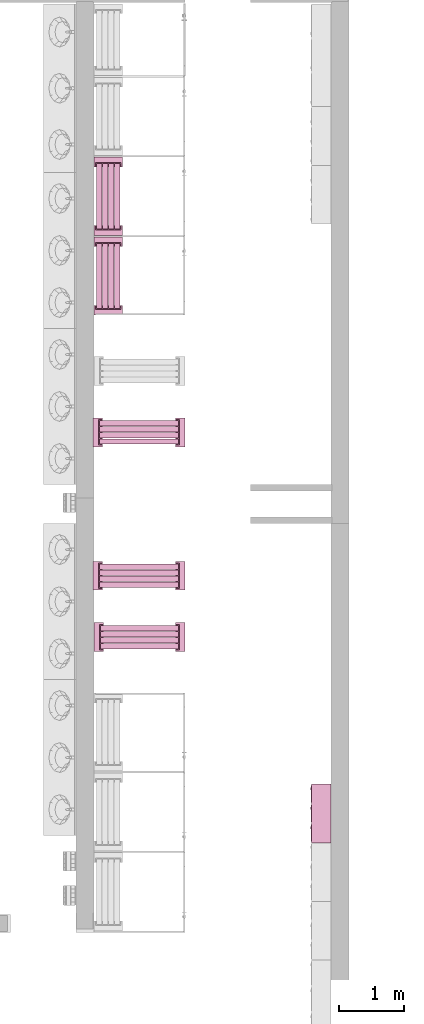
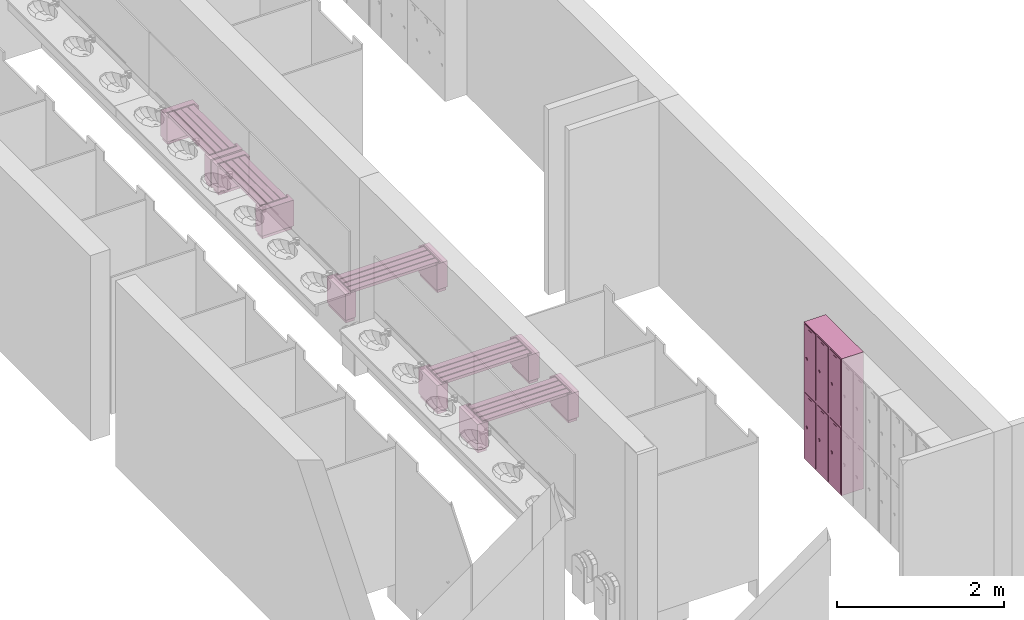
# One storey, part 13 of 22: 6 furnishings.
"""IFC2X3 building model written with IfcOpenShell, lengths in millimetres."""

from ifc_helpers import new_model, entity, si_unit, converted_unit, derived_unit, direction, frame, frame_2d, origin, origin_2d_with_axis, place, context, subcontext, project, spatial, polyline, rectangle, outline, extrude, source, transform, mapped, material, material_list, type_object, type_shapes, element, save


model = new_model("IFC2X3")

# Units and contexts
model_context = context("Model", 3, precision=0.01, world=origin(), true_north=direction((6.12303176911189e-17, 1.0)))
body_context = subcontext(model_context, "Body", "Model", "MODEL_VIEW")
ifc_project = project(units=[si_unit("LENGTHUNIT", "METRE", prefix="MILLI"), si_unit("AREAUNIT", "SQUARE_METRE"), si_unit("VOLUMEUNIT", "CUBIC_METRE"), converted_unit("PLANEANGLEUNIT", "DEGREE", entity("IfcRatioMeasure", 0.0174532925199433), si_unit("PLANEANGLEUNIT", "RADIAN"), dimensions=[0, 0, 0, 0, 0, 0, 0]), si_unit("MASSUNIT", "GRAM", prefix="KILO"), derived_unit("MASSDENSITYUNIT", [(si_unit("MASSUNIT", "GRAM", prefix="KILO"), 1), (si_unit("LENGTHUNIT", "METRE"), -3)]), si_unit("TIMEUNIT", "SECOND"), si_unit("FREQUENCYUNIT", "HERTZ"), si_unit("THERMODYNAMICTEMPERATUREUNIT", "DEGREE_CELSIUS"), derived_unit("THERMALTRANSMITTANCEUNIT", [(si_unit("MASSUNIT", "GRAM", prefix="KILO"), 1), (si_unit("THERMODYNAMICTEMPERATUREUNIT", "KELVIN"), -1), (si_unit("TIMEUNIT", "SECOND"), -3)]), derived_unit("VOLUMETRICFLOWRATEUNIT", [(si_unit("LENGTHUNIT", "METRE"), 3), (si_unit("TIMEUNIT", "SECOND"), -1)]), si_unit("ELECTRICCURRENTUNIT", "AMPERE"), si_unit("ELECTRICVOLTAGEUNIT", "VOLT"), si_unit("POWERUNIT", "WATT"), si_unit("FORCEUNIT", "NEWTON", prefix="KILO"), si_unit("ILLUMINANCEUNIT", "LUX"), si_unit("LUMINOUSFLUXUNIT", "LUMEN"), si_unit("LUMINOUSINTENSITYUNIT", "CANDELA"), derived_unit("USERDEFINED", [(si_unit("MASSUNIT", "GRAM", prefix="KILO"), -1), (si_unit("LENGTHUNIT", "METRE"), -2), (si_unit("TIMEUNIT", "SECOND"), 3), (si_unit("LUMINOUSFLUXUNIT", "LUMEN"), 1)]), derived_unit("LINEARVELOCITYUNIT", [(si_unit("LENGTHUNIT", "METRE"), 1), (si_unit("TIMEUNIT", "SECOND"), -1)]), si_unit("PRESSUREUNIT", "PASCAL"), derived_unit("USERDEFINED", [(si_unit("LENGTHUNIT", "METRE"), -2), (si_unit("MASSUNIT", "GRAM", prefix="KILO"), 1), (si_unit("TIMEUNIT", "SECOND"), -2)])], contexts=[model_context])

# Site, building, storey
site_placement = place(None, origin())
site = spatial("IfcSite", under=ifc_project, at=site_placement, Name="Default", CompositionType="ELEMENT")
building_placement = place(site_placement, origin())
building = spatial("IfcBuilding", under=site, at=building_placement, CompositionType="ELEMENT")
storey_placement = place(building_placement, frame((0.0, 0.0, -3000.0)))
storey = spatial("IfcBuildingStorey", under=building, at=storey_placement, Name="-2. Story", CompositionType="ELEMENT", Elevation=-3000.0)

# Furnishings
ifc_material_1 = material(Name="Metal - Stainless Steel")
ifc_material_2 = material(Name="Paint - Glossy White")
ifc_material_3 = material(Name="Paint - Cobalt Blue")
ifc_material_list_1 = material_list([ifc_material_1, ifc_material_2, ifc_material_3])
ifc_material_list_2 = material_list([ifc_material_1, ifc_material_2, ifc_material_3])
furniture_type_1 = type_object("IfcFurnitureType", Name="FU - 010", material=ifc_material_list_2)
shared_shape_1 = source(origin(), body_context, "Body", "SweptSolid", [
    extrude(outline(polyline([(-7.65366864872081, -18.477590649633), (7.65366864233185, -18.477590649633), (18.4775906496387, -7.65366864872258), (18.4775906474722, 7.65366864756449), (7.65366864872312, 18.4775906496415), (-7.65366864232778, 18.4775906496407), (-18.477590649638, 7.65366864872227), (-18.4775906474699, -7.65366864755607), (-7.65366864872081, -18.477590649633)])), frame((53933.5254833, 77833.9483369, -1400.0), z_axis=(1.0, 0.0, 0.0), x_axis=(0.0, 0.382683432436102, -0.923879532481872)), (0.0, 0.0, 1.0), 10.0000000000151),
    extrude(rectangle(XDim=75.0000000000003, YDim=4.99999999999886, at=origin_2d_with_axis()), frame((53941.0254833, 77753.9483369, -1000.0), z_axis=(0.0, 0.0, 1.0), x_axis=(0.0, -1.0, 0.0)), (0.0, 0.0, 1.0), 50.0),
    extrude(rectangle(XDim=259.999999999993, YDim=9.99999999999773, at=origin_2d_with_axis()), frame((53948.5254833, 77753.9483369, -1880.0), z_axis=(0.0, 0.0, 1.0), x_axis=(0.0, 1.0, 0.0)), (0.0, 0.0, 1.0), 960.0),
    extrude(rectangle(XDim=300.000000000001, YDim=20.0000000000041, at=frame_2d((0.0, -4.33164615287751e-12), x_axis=(1.0, 0.0))), frame((54238.5254833, 77753.9483369, -1900.0), z_axis=(0.0, 0.0, 1.0), x_axis=(0.0, -1.0, 0.0)), (0.0, 0.0, 1.0), 1000.0),
    extrude(outline(polyline([(-150.0, -500.0), (150.0, -500.0), (150.0, 500.0), (-150.0, 500.0), (-150.0, -500.0)]), holes=[polyline([(130.0, 480.0), (130.0, -480.0), (-130.0, -480.0), (-130.0, 480.0), (130.0, 480.0)])]), frame((53948.5254833, 77753.9483369, -1400.0), z_axis=(1.0, 0.0, 0.0), x_axis=(0.0, 1.0, 0.0)), (0.0, 0.0, 1.0), 279.999999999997),
    extrude(outline(polyline([(-7.65366864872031, -18.4775906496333), (7.65366864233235, -18.4775906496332), (18.4775906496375, -7.65366864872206), (18.4775906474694, 7.65366864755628), (7.65366864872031, 18.4775906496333), (-7.65366864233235, 18.4775906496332), (-18.4775906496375, 7.65366864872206), (-18.4775906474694, -7.65366864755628), (-7.65366864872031, -18.4775906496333)])), frame((53933.5254833, 78133.9483369, -1400.0), z_axis=(1.0, 0.0, 0.0), x_axis=(0.0, 0.382683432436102, -0.923879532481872)), (0.0, 0.0, 1.0), 10.0000000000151),
    extrude(rectangle(XDim=75.0000000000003, YDim=4.99999999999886, at=origin_2d_with_axis()), frame((53941.0254833, 78053.9483369, -1000.0), z_axis=(0.0, 0.0, 1.0), x_axis=(0.0, -1.0, 0.0)), (0.0, 0.0, 1.0), 50.0),
    extrude(rectangle(XDim=260.00000000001, YDim=9.99999999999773, at=origin_2d_with_axis()), frame((53948.5254833, 78053.9483369, -1880.0), z_axis=(0.0, 0.0, 1.0), x_axis=(0.0, 1.0, 0.0)), (0.0, 0.0, 1.0), 960.0),
    extrude(rectangle(XDim=300.000000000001, YDim=20.0000000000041, at=frame_2d((0.0, -4.33164615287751e-12), x_axis=(1.0, 0.0))), frame((54238.5254833, 78053.9483369, -1900.0), z_axis=(0.0, 0.0, 1.0), x_axis=(0.0, -1.0, 0.0)), (0.0, 0.0, 1.0), 1000.0),
    extrude(outline(polyline([(-150.0, -500.0), (150.0, -500.0), (150.0, 500.0), (-150.0, 500.0), (-150.0, -500.0)]), holes=[polyline([(130.0, 480.0), (130.0, -480.0), (-130.0, -480.0), (-130.0, 480.0), (130.0, 480.0)])]), frame((53948.5254833, 78053.9483369, -1400.0), z_axis=(1.0, 0.0, 0.0), x_axis=(0.0, 1.0, 0.0)), (0.0, 0.0, 1.0), 279.999999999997),
    extrude(outline(polyline([(-7.65366864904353, -18.4775906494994), (7.65366864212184, -18.4775906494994), (18.4775906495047, -7.65366864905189), (18.477590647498, 7.6536686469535), (7.65366864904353, 18.4775906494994), (-7.65366864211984, 18.4775906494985), (-18.4775906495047, 7.65366864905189), (-18.477590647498, -7.6536686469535), (-7.65366864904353, -18.4775906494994)])), frame((53933.5254833, 78433.9483369, -1400.0), z_axis=(1.0, 0.0, 0.0), x_axis=(0.0, 0.382683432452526, -0.923879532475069)), (0.0, 0.0, 1.0), 10.0000000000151),
    extrude(rectangle(XDim=75.0000000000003, YDim=4.99999999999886, at=origin_2d_with_axis()), frame((53941.0254833, 78353.9483369, -1000.0), z_axis=(0.0, 0.0, 1.0), x_axis=(0.0, -1.0, 0.0)), (0.0, 0.0, 1.0), 50.0),
    extrude(rectangle(XDim=260.00000000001, YDim=9.99999999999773, at=origin_2d_with_axis()), frame((53948.5254833, 78353.9483369, -1880.0), z_axis=(0.0, 0.0, 1.0), x_axis=(0.0, 1.0, 0.0)), (0.0, 0.0, 1.0), 960.0),
    extrude(rectangle(XDim=300.000000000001, YDim=20.0000000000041, at=frame_2d((0.0, -4.33164615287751e-12), x_axis=(1.0, 0.0))), frame((54238.5254833, 78353.9483369, -1900.0), z_axis=(0.0, 0.0, 1.0), x_axis=(0.0, -1.0, 0.0)), (0.0, 0.0, 1.0), 1000.0),
    extrude(outline(polyline([(-150.0, -500.0), (150.0, -500.0), (150.0, 500.0), (-150.0, 500.0), (-150.0, -500.0)]), holes=[polyline([(130.0, 480.0), (130.0, -480.0), (-130.0, -480.0), (-130.0, 480.0), (130.0, 480.0)])]), frame((53948.5254833, 78353.9483369, -1400.0), z_axis=(1.0, 0.0, 0.0), x_axis=(0.0, 1.0, 0.0)), (0.0, 0.0, 1.0), 279.999999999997),
    extrude(outline(polyline([(-7.653668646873, -18.4775906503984), (7.65366864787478, -18.4775906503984), (18.4775906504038, -7.65366864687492), (18.4775906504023, 7.65366864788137), (7.65366864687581, 18.4775906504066), (-7.65366864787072, 18.4775906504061), (-18.477590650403, 7.65366864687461), (-18.4775906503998, -7.65366864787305), (-7.653668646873, -18.4775906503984)])), frame((53933.5254833, 77833.9483369, -2400.0), z_axis=(1.0, 0.0, 0.0), x_axis=(0.0, 0.382683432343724, -0.923879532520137)), (0.0, 0.0, 1.0), 10.0000000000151),
    extrude(rectangle(XDim=75.0000000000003, YDim=4.99999999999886, at=origin_2d_with_axis()), frame((53941.0254833, 77753.9483369, -2000.0), z_axis=(0.0, 0.0, 1.0), x_axis=(0.0, -1.0, 0.0)), (0.0, 0.0, 1.0), 50.0),
    extrude(rectangle(XDim=259.999999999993, YDim=9.99999999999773, at=origin_2d_with_axis()), frame((53948.5254833, 77753.9483369, -2880.0), z_axis=(0.0, 0.0, 1.0), x_axis=(0.0, 1.0, 0.0)), (0.0, 0.0, 1.0), 960.0),
    extrude(rectangle(XDim=300.000000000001, YDim=20.0000000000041, at=frame_2d((0.0, -4.33164615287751e-12), x_axis=(1.0, 0.0))), frame((54238.5254833, 77753.9483369, -2900.0), z_axis=(0.0, 0.0, 1.0), x_axis=(0.0, -1.0, 0.0)), (0.0, 0.0, 1.0), 1000.0),
    extrude(outline(polyline([(-150.0, -500.0), (150.0, -500.0), (150.0, 500.0), (-150.0, 500.0), (-150.0, -500.0)]), holes=[polyline([(130.0, 480.0), (130.0, -480.0), (-130.0, -480.0), (-130.0, 480.0), (130.0, 480.0)])]), frame((53948.5254833, 77753.9483369, -2400.0), z_axis=(1.0, 0.0, 0.0), x_axis=(0.0, 1.0, 0.0)), (0.0, 0.0, 1.0), 279.999999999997),
    extrude(outline(polyline([(-7.6536686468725, -18.4775906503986), (7.65366864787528, -18.4775906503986), (18.4775906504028, -7.65366864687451), (18.4775906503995, 7.65366864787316), (7.653668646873, 18.4775906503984), (-7.65366864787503, 18.4775906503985), (-18.4775906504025, 7.65366864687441), (-18.4775906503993, -7.65366864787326), (-7.6536686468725, -18.4775906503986)])), frame((53933.5254833, 78133.9483369, -2400.0), z_axis=(1.0, 0.0, 0.0), x_axis=(0.0, 0.382683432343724, -0.923879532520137)), (0.0, 0.0, 1.0), 10.0000000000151),
    extrude(rectangle(XDim=75.0000000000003, YDim=4.99999999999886, at=origin_2d_with_axis()), frame((53941.0254833, 78053.9483369, -2000.0), z_axis=(0.0, 0.0, 1.0), x_axis=(0.0, -1.0, 0.0)), (0.0, 0.0, 1.0), 50.0),
    extrude(rectangle(XDim=260.00000000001, YDim=9.99999999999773, at=origin_2d_with_axis()), frame((53948.5254833, 78053.9483369, -2880.0), z_axis=(0.0, 0.0, 1.0), x_axis=(0.0, 1.0, 0.0)), (0.0, 0.0, 1.0), 960.0),
    extrude(rectangle(XDim=300.000000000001, YDim=20.0000000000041, at=frame_2d((0.0, -4.33164615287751e-12), x_axis=(1.0, 0.0))), frame((54238.5254833, 78053.9483369, -2900.0), z_axis=(0.0, 0.0, 1.0), x_axis=(0.0, -1.0, 0.0)), (0.0, 0.0, 1.0), 1000.0),
    extrude(outline(polyline([(-150.0, -500.0), (150.0, -500.0), (150.0, 500.0), (-150.0, 500.0), (-150.0, -500.0)]), holes=[polyline([(130.0, 480.0), (130.0, -480.0), (-130.0, -480.0), (-130.0, 480.0), (130.0, 480.0)])]), frame((53948.5254833, 78053.9483369, -2400.0), z_axis=(1.0, 0.0, 0.0), x_axis=(0.0, 1.0, 0.0)), (0.0, 0.0, 1.0), 279.999999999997),
    extrude(outline(polyline([(-7.65366864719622, -18.4775906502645), (7.65366864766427, -18.4775906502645), (18.4775906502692, -7.65366864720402), (18.4775906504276, 7.65366864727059), (7.65366864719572, 18.4775906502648), (-7.65366864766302, 18.477590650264), (-18.4775906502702, 7.65366864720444), (-18.4775906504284, -7.65366864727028), (-7.65366864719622, -18.4775906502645)])), frame((53933.5254833, 78433.9483369, -2400.0), z_axis=(1.0, 0.0, 0.0), x_axis=(0.0, 0.382683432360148, -0.923879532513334)), (0.0, 0.0, 1.0), 10.0000000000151),
    extrude(rectangle(XDim=75.0000000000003, YDim=4.99999999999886, at=origin_2d_with_axis()), frame((53941.0254833, 78353.9483369, -2000.0), z_axis=(0.0, 0.0, 1.0), x_axis=(0.0, -1.0, 0.0)), (0.0, 0.0, 1.0), 50.0),
    extrude(rectangle(XDim=260.00000000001, YDim=9.99999999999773, at=origin_2d_with_axis()), frame((53948.5254833, 78353.9483369, -2880.0), z_axis=(0.0, 0.0, 1.0), x_axis=(0.0, 1.0, 0.0)), (0.0, 0.0, 1.0), 960.0),
    extrude(rectangle(XDim=300.000000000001, YDim=20.0000000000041, at=frame_2d((0.0, -4.33164615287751e-12), x_axis=(1.0, 0.0))), frame((54238.5254833, 78353.9483369, -2900.0), z_axis=(0.0, 0.0, 1.0), x_axis=(0.0, -1.0, 0.0)), (0.0, 0.0, 1.0), 1000.0),
    extrude(outline(polyline([(-150.0, -500.0), (150.0, -500.0), (150.0, 500.0), (-150.0, 500.0), (-150.0, -500.0)]), holes=[polyline([(130.0, 480.0), (130.0, -480.0), (-130.0, -480.0), (-130.0, 480.0), (130.0, 480.0)])]), frame((53948.5254833, 78353.9483369, -2400.0), z_axis=(1.0, 0.0, 0.0), x_axis=(0.0, 1.0, 0.0)), (0.0, 0.0, 1.0), 279.999999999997),
])
type_shapes(furniture_type_1, [shared_shape_1])
furnishing_1_placement = place(storey_placement, frame((0.0, 0.0, 3000.0)))
element("IfcFurnishingElement", 1, at=furnishing_1_placement, inside=storey, type_object=furniture_type_1, material=ifc_material_list_1, Name="FU - 010:FU - 010", ObjectType="FU - 010:FU - 010", context=body_context, shape_type="MappedRepresentation", body=[
    mapped(shared_shape_1, transform((0.0, 0.0, 0.0), scale=1.0)),
])
ifc_material_4 = material(Name="Wood - Pine Grained Horizontal")
ifc_material_5 = material(Name="Paint - Titanium White")
ifc_material_list_3 = material_list([ifc_material_4, ifc_material_5])
ifc_material_list_4 = material_list([ifc_material_4, ifc_material_5])
furniture_type_2 = type_object("IfcFurnitureType", Name="FU - 011", material=ifc_material_list_4)
shared_shape_2 = source(origin(), body_context, "Body", "SweptSolid", [
    extrude(rectangle(XDim=83.1575481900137, YDim=1214.87365918, at=frame_2d((0.0, -4.32009983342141e-12), x_axis=(1.0, 0.0))), frame((51301.42009191, 81564.212014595, -2510.0), z_axis=(0.0, 0.0, 1.0), x_axis=(0.0, 1.0, 0.0)), (0.0, 0.0, 1.0), 40.0000000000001),
    extrude(rectangle(XDim=83.1575481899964, YDim=1214.87365918, at=frame_2d((8.66506866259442e-12, -4.32009983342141e-12), x_axis=(1.0, 0.0))), frame((51301.42009191, 81657.369562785, -2510.0), z_axis=(0.0, 0.0, 1.0), x_axis=(0.0, 1.0, 0.0)), (0.0, 0.0, 1.0), 40.0000000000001),
    extrude(rectangle(XDim=83.1575481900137, YDim=1214.87365918, at=frame_2d((0.0, -4.32009983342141e-12), x_axis=(1.0, 0.0))), frame((51301.42009191, 81750.527110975, -2510.0), z_axis=(0.0, 0.0, 1.0), x_axis=(0.0, 1.0, 0.0)), (0.0, 0.0, 1.0), 40.0000000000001),
    extrude(rectangle(XDim=83.157548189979, YDim=1214.87365918, at=frame_2d((0.0, -4.32009983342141e-12), x_axis=(1.0, 0.0))), frame((51301.42009191, 81843.684659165, -2510.0), z_axis=(0.0, 0.0, 1.0), x_axis=(0.0, 1.0, 0.0)), (0.0, 0.0, 1.0), 40.0000000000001),
    extrude(outline(polyline([(-53.7500000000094, -221.315096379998), (96.2499999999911, -221.315096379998), (96.2499999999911, 221.315096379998), (-53.7500000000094, 221.315096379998), (-53.7500000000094, 196.315096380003), (11.2499999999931, 196.315096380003), (11.2499999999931, -196.315096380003), (-53.7500000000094, -196.315096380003), (-53.7500000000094, -221.315096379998)])), frame((50690.23326232, 81703.94833688, -2510.0), z_axis=(0.0, 0.0, 1.0), x_axis=(-1.0, 0.0, 0.0)), (0.0, 0.0, 1.0), 40.0000000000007),
    extrude(rectangle(XDim=150.000000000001, YDim=442.630192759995, at=origin_2d_with_axis()), frame((50668.98326232, 81703.94833688, -2850.0), z_axis=(0.0, 0.0, 1.0), x_axis=(-1.0, 0.0, 0.0)), (0.0, 0.0, 1.0), 340.0),
    extrude(rectangle(XDim=119.999999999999, YDim=412.630192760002, at=frame_2d((-4.33075797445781e-12, 0.0), x_axis=(1.0, 0.0))), frame((50668.98326232, 81703.94833688, -2900.0), z_axis=(0.0, 0.0, 1.0), x_axis=(-1.0, 0.0, 0.0)), (0.0, 0.0, 1.0), 50.0),
    extrude(outline(polyline([(-221.315096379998, -96.2499999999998), (221.315096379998, -96.2499999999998), (221.315096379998, 53.7500000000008), (196.315096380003, 53.7500000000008), (196.315096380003, -11.2500000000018), (-196.315096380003, -11.2500000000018), (-196.315096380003, 53.7500000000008), (-221.315096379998, 53.7500000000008), (-221.315096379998, -96.2499999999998)])), frame((51912.6069215, 81703.94833688, -2510.0), z_axis=(0.0, 0.0, 1.0), x_axis=(0.0, 1.0, 0.0)), (0.0, 0.0, 1.0), 40.0000000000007),
    extrude(rectangle(XDim=442.630192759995, YDim=150.000000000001, at=origin_2d_with_axis()), frame((51933.8569215, 81703.94833688, -2850.0), z_axis=(0.0, 0.0, 1.0), x_axis=(0.0, 1.0, 0.0)), (0.0, 0.0, 1.0), 340.0),
    extrude(rectangle(XDim=412.630192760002, YDim=119.999999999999, at=frame_2d((0.0, 4.33075797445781e-12), x_axis=(1.0, 0.0))), frame((51933.8569215, 81703.94833688, -2900.0), z_axis=(0.0, 0.0, 1.0), x_axis=(0.0, 1.0, 0.0)), (0.0, 0.0, 1.0), 50.0),
])
type_shapes(furniture_type_2, [shared_shape_2])
furnishing_2_placement = place(storey_placement, frame((0.0, 0.0, 3000.0)))
element("IfcFurnishingElement", 2, at=furnishing_2_placement, inside=storey, type_object=furniture_type_2, material=ifc_material_list_3, Name="FU - 011 1520968:FU - 011 1520968", ObjectType="FU - 011 1520968:FU - 011 1520968", context=body_context, shape_type="MappedRepresentation", body=[
    mapped(shared_shape_2, transform((0.0, 0.0, 0.0), scale=1.0)),
])
ifc_material_list_5 = material_list([ifc_material_4, ifc_material_5])
ifc_material_list_6 = material_list([ifc_material_4, ifc_material_5])
furniture_type_3 = type_object("IfcFurnitureType", Name="FU - 011", material=ifc_material_list_6)
shared_shape_3 = source(origin(), body_context, "Body", "SweptSolid", [
    extrude(rectangle(XDim=83.1575481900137, YDim=1202.37365918, at=origin_2d_with_axis()), frame((51307.67009191, 80621.581821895, -2510.0), z_axis=(0.0, 0.0, 1.0), x_axis=(0.0, 1.0, 0.0)), (0.0, 0.0, 1.0), 40.0000000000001),
    extrude(rectangle(XDim=83.1575481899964, YDim=1202.37365918, at=frame_2d((8.66506866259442e-12, 0.0), x_axis=(1.0, 0.0))), frame((51307.67009191, 80714.739370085, -2510.0), z_axis=(0.0, 0.0, 1.0), x_axis=(0.0, 1.0, 0.0)), (0.0, 0.0, 1.0), 40.0000000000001),
    extrude(rectangle(XDim=83.1575481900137, YDim=1202.37365918, at=origin_2d_with_axis()), frame((51307.67009191, 80807.896918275, -2510.0), z_axis=(0.0, 0.0, 1.0), x_axis=(0.0, 1.0, 0.0)), (0.0, 0.0, 1.0), 40.0000000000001),
    extrude(rectangle(XDim=83.157548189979, YDim=1202.37365918, at=origin_2d_with_axis()), frame((51307.67009191, 80901.054466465, -2510.0), z_axis=(0.0, 0.0, 1.0), x_axis=(0.0, 1.0, 0.0)), (0.0, 0.0, 1.0), 40.0000000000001),
    extrude(outline(polyline([(-53.7500000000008, -221.315096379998), (96.2499999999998, -221.315096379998), (96.2499999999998, 221.315096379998), (-53.7500000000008, 221.315096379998), (-53.7500000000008, 196.315096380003), (11.2499999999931, 196.315096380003), (11.2499999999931, -196.315096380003), (-53.7500000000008, -196.315096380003), (-53.7500000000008, -221.315096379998)])), frame((50702.73326232, 80761.31814418, -2510.0), z_axis=(0.0, 0.0, 1.0), x_axis=(-1.0, 0.0, 0.0)), (0.0, 0.0, 1.0), 40.0000000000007),
    extrude(rectangle(XDim=150.000000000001, YDim=442.630192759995, at=origin_2d_with_axis()), frame((50681.48326232, 80761.31814418, -2850.0), z_axis=(0.0, 0.0, 1.0), x_axis=(-1.0, 0.0, 0.0)), (0.0, 0.0, 1.0), 340.0),
    extrude(rectangle(XDim=119.999999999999, YDim=412.630192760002, at=frame_2d((4.33075797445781e-12, 0.0), x_axis=(1.0, 0.0))), frame((50681.48326232, 80761.31814418, -2900.0), z_axis=(0.0, 0.0, 1.0), x_axis=(-1.0, 0.0, 0.0)), (0.0, 0.0, 1.0), 50.0),
    extrude(outline(polyline([(-221.315096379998, -96.2499999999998), (221.315096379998, -96.2499999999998), (221.315096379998, 53.7500000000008), (196.315096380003, 53.7500000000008), (196.315096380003, -11.2500000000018), (-196.315096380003, -11.2500000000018), (-196.315096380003, 53.7500000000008), (-221.315096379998, 53.7500000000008), (-221.315096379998, -96.2499999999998)])), frame((51912.6069215, 80761.31814418, -2510.0), z_axis=(0.0, 0.0, 1.0), x_axis=(0.0, 1.0, 0.0)), (0.0, 0.0, 1.0), 40.0000000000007),
    extrude(rectangle(XDim=442.630192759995, YDim=150.000000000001, at=origin_2d_with_axis()), frame((51933.8569215, 80761.31814418, -2850.0), z_axis=(0.0, 0.0, 1.0), x_axis=(0.0, 1.0, 0.0)), (0.0, 0.0, 1.0), 340.0),
    extrude(rectangle(XDim=412.630192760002, YDim=119.999999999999, at=frame_2d((0.0, 4.33075797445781e-12), x_axis=(1.0, 0.0))), frame((51933.8569215, 80761.31814418, -2900.0), z_axis=(0.0, 0.0, 1.0), x_axis=(0.0, 1.0, 0.0)), (0.0, 0.0, 1.0), 50.0),
])
type_shapes(furniture_type_3, [shared_shape_3])
furnishing_3_placement = place(storey_placement, frame((0.0, 0.0, 3000.0)))
element("IfcFurnishingElement", 3, at=furnishing_3_placement, inside=storey, type_object=furniture_type_3, material=ifc_material_list_5, Name="FU - 011 1521730:FU - 011 1521730", ObjectType="FU - 011 1521730:FU - 011 1521730", context=body_context, shape_type="MappedRepresentation", body=[
    mapped(shared_shape_3, transform((0.0, 0.0, 0.0), scale=1.0)),
])
ifc_material_list_7 = material_list([ifc_material_4, ifc_material_5])
ifc_material_list_8 = material_list([ifc_material_4, ifc_material_5])
furniture_type_4 = type_object("IfcFurnitureType", Name="FU - 011", material=ifc_material_list_8)
shared_shape_4 = source(origin(), body_context, "Body", "SweptSolid", [
    extrude(rectangle(XDim=1214.87365918, YDim=83.1575481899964, at=frame_2d((-4.32009983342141e-12, -8.66506866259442e-12), x_axis=(1.0, 0.0))), frame((51301.42009191, 84043.684659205, -2510.0)), (0.0, 0.0, 1.0), 40.0000000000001),
    extrude(rectangle(XDim=1214.87365918, YDim=83.157548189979, at=frame_2d((-4.32009983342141e-12, 0.0), x_axis=(1.0, 0.0))), frame((51301.42009191, 83950.527111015, -2510.0)), (0.0, 0.0, 1.0), 40.0000000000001),
    extrude(rectangle(XDim=1214.87365918, YDim=83.1575481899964, at=frame_2d((-4.32009983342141e-12, -8.66506866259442e-12), x_axis=(1.0, 0.0))), frame((51301.42009191, 83857.369562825, -2510.0)), (0.0, 0.0, 1.0), 40.0000000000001),
    extrude(rectangle(XDim=1214.87365918, YDim=83.1575481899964, at=frame_2d((-4.32009983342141e-12, 8.66506866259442e-12), x_axis=(1.0, 0.0))), frame((51301.42009191, 83764.212014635, -2510.0)), (0.0, 0.0, 1.0), 40.0000000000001),
    extrude(outline(polyline([(-221.315096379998, -96.2499999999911), (221.315096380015, -96.2499999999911), (221.315096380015, 53.7500000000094), (196.315096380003, 53.7500000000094), (196.315096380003, -11.2499999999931), (-196.315096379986, -11.2499999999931), (-196.315096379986, 53.7500000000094), (-221.315096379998, 53.7500000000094), (-221.315096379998, -96.2499999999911)])), frame((50690.23326232, 83903.94833692, -2510.0), z_axis=(0.0, 0.0, 1.0), x_axis=(0.0, -1.0, 0.0)), (0.0, 0.0, 1.0), 40.0000000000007),
    extrude(rectangle(XDim=442.630192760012, YDim=150.000000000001, at=frame_2d((8.66862137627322e-12, 0.0), x_axis=(1.0, 0.0))), frame((50668.98326232, 83903.94833692, -2850.0), z_axis=(0.0, 0.0, 1.0), x_axis=(0.0, -1.0, 0.0)), (0.0, 0.0, 1.0), 340.0),
    extrude(rectangle(XDim=412.630192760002, YDim=119.999999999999, at=frame_2d((0.0, 4.33075797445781e-12), x_axis=(1.0, 0.0))), frame((50668.98326232, 83903.94833692, -2900.0), z_axis=(0.0, 0.0, 1.0), x_axis=(0.0, -1.0, 0.0)), (0.0, 0.0, 1.0), 50.0),
    extrude(outline(polyline([(-53.7500000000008, -221.315096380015), (96.2499999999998, -221.315096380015), (96.2499999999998, 221.315096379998), (-53.7500000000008, 221.315096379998), (-53.7500000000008, 196.315096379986), (11.2500000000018, 196.315096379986), (11.2500000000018, -196.315096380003), (-53.7500000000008, -196.315096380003), (-53.7500000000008, -221.315096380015)])), frame((51912.6069215, 83903.94833692, -2510.0)), (0.0, 0.0, 1.0), 40.0000000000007),
    extrude(rectangle(XDim=150.000000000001, YDim=442.630192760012, at=frame_2d((0.0, -8.66862137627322e-12), x_axis=(1.0, 0.0))), frame((51933.8569215, 83903.94833692, -2850.0)), (0.0, 0.0, 1.0), 340.0),
    extrude(rectangle(XDim=119.999999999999, YDim=412.630192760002, at=frame_2d((4.33075797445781e-12, 0.0), x_axis=(1.0, 0.0))), frame((51933.8569215, 83903.94833692, -2900.0)), (0.0, 0.0, 1.0), 50.0),
])
type_shapes(furniture_type_4, [shared_shape_4])
furnishing_4_placement = place(storey_placement, frame((0.0, 0.0, 3000.0)))
element("IfcFurnishingElement", 4, at=furnishing_4_placement, inside=storey, type_object=furniture_type_4, material=ifc_material_list_7, Name="FU - 011 1551393:FU - 011 1551393", ObjectType="FU - 011 1551393:FU - 011 1551393", context=body_context, shape_type="MappedRepresentation", body=[
    mapped(shared_shape_4, transform((0.0, 0.0, 0.0), scale=1.0)),
])
ifc_material_list_9 = material_list([ifc_material_4, ifc_material_5])
ifc_material_list_10 = material_list([ifc_material_4, ifc_material_5])
furniture_type_5 = type_object("IfcFurnitureType", Name="FU - 011", material=ifc_material_list_10)
shared_shape_5 = source(origin(), body_context, "Body", "SweptSolid", [
    extrude(rectangle(XDim=999.999999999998, YDim=83.157548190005, at=frame_2d((-8.66862137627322e-12, 4.33431068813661e-12), x_axis=(1.0, 0.0))), frame((50688.062036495, 87528.9483369, -2510.0), z_axis=(0.0, 0.0, 1.0), x_axis=(0.0, 1.0, 0.0)), (0.0, 0.0, 1.0), 40.0000000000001),
    extrude(rectangle(XDim=999.999999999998, YDim=83.1575481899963, at=frame_2d((-8.66862137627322e-12, 0.0), x_axis=(1.0, 0.0))), frame((50781.219584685, 87528.9483369, -2510.0), z_axis=(0.0, 0.0, 1.0), x_axis=(0.0, 1.0, 0.0)), (0.0, 0.0, 1.0), 40.0000000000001),
    extrude(rectangle(XDim=999.999999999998, YDim=83.1575481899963, at=frame_2d((-8.66862137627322e-12, 0.0), x_axis=(1.0, 0.0))), frame((50874.377132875, 87528.9483369, -2510.0), z_axis=(0.0, 0.0, 1.0), x_axis=(0.0, 1.0, 0.0)), (0.0, 0.0, 1.0), 40.0000000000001),
    extrude(rectangle(XDim=999.999999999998, YDim=83.157548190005, at=frame_2d((-8.66862137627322e-12, 4.33431068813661e-12), x_axis=(1.0, 0.0))), frame((50967.534681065, 87528.9483369, -2510.0), z_axis=(0.0, 0.0, 1.0), x_axis=(0.0, 1.0, 0.0)), (0.0, 0.0, 1.0), 40.0000000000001),
    extrude(outline(polyline([(-221.315096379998, -96.2499999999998), (221.315096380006, -96.2499999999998), (221.315096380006, 53.7500000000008), (196.315096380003, 53.7500000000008), (196.315096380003, -11.2499999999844), (-196.315096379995, -11.2499999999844), (-196.315096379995, 53.7500000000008), (-221.315096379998, 53.7500000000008), (-221.315096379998, -96.2499999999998)])), frame((50827.79835878, 87025.1983369, -2510.0)), (0.0, 0.0, 1.0), 40.0000000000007),
    extrude(rectangle(XDim=442.630192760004, YDim=150.000000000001, at=frame_2d((-4.33431068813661e-12, 0.0), x_axis=(1.0, 0.0))), frame((50827.79835878, 87003.9483369, -2850.0)), (0.0, 0.0, 1.0), 340.0),
    extrude(rectangle(XDim=412.630192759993, YDim=119.99999999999, at=frame_2d((-4.33431068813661e-12, -8.66506866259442e-12), x_axis=(1.0, 0.0))), frame((50827.79835878, 87003.9483369, -2900.0)), (0.0, 0.0, 1.0), 50.0),
    extrude(outline(polyline([(-53.7500000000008, -221.315096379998), (96.2499999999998, -221.315096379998), (96.2499999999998, 221.315096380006), (-53.7500000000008, 221.315096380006), (-53.7500000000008, 196.315096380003), (11.2500000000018, 196.315096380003), (11.2500000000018, -196.315096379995), (-53.7500000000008, -196.315096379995), (-53.7500000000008, -221.315096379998)])), frame((50827.79835878, 88032.6983369, -2510.0), z_axis=(0.0, 0.0, 1.0), x_axis=(0.0, 1.0, 0.0)), (0.0, 0.0, 1.0), 40.0000000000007),
    extrude(rectangle(XDim=150.000000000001, YDim=442.630192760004, at=frame_2d((0.0, 4.33431068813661e-12), x_axis=(1.0, 0.0))), frame((50827.79835878, 88053.9483369, -2850.0), z_axis=(0.0, 0.0, 1.0), x_axis=(0.0, 1.0, 0.0)), (0.0, 0.0, 1.0), 340.0),
    extrude(rectangle(XDim=120.000000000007, YDim=412.630192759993, at=frame_2d((0.0, 4.33431068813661e-12), x_axis=(1.0, 0.0))), frame((50827.79835878, 88053.9483369, -2900.0), z_axis=(0.0, 0.0, 1.0), x_axis=(0.0, 1.0, 0.0)), (0.0, 0.0, 1.0), 50.0),
])
type_shapes(furniture_type_5, [shared_shape_5])
furnishing_5_placement = place(storey_placement, frame((0.0, 0.0, 3000.0)))
element("IfcFurnishingElement", 5, at=furnishing_5_placement, inside=storey, type_object=furniture_type_5, material=ifc_material_list_9, Name="FU - 011 1552553:FU - 011 1552553", ObjectType="FU - 011 1552553:FU - 011 1552553", context=body_context, shape_type="MappedRepresentation", body=[
    mapped(shared_shape_5, transform((0.0, 0.0, 0.0), scale=1.0)),
])
ifc_material_list_11 = material_list([ifc_material_4, ifc_material_5])
ifc_material_list_12 = material_list([ifc_material_4, ifc_material_5])
furniture_type_6 = type_object("IfcFurnitureType", Name="FU - 011", material=ifc_material_list_12)
shared_shape_6 = source(origin(), body_context, "Body", "SweptSolid", [
    extrude(rectangle(XDim=999.999999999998, YDim=83.157548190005, at=frame_2d((8.66862137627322e-12, 4.33431068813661e-12), x_axis=(1.0, 0.0))), frame((50688.062036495, 86303.9483369, -2510.0), z_axis=(0.0, 0.0, 1.0), x_axis=(0.0, 1.0, 0.0)), (0.0, 0.0, 1.0), 40.0000000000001),
    extrude(rectangle(XDim=999.999999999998, YDim=83.1575481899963, at=frame_2d((8.66862137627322e-12, 0.0), x_axis=(1.0, 0.0))), frame((50781.219584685, 86303.9483369, -2510.0), z_axis=(0.0, 0.0, 1.0), x_axis=(0.0, 1.0, 0.0)), (0.0, 0.0, 1.0), 40.0000000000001),
    extrude(rectangle(XDim=999.999999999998, YDim=83.1575481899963, at=frame_2d((8.66862137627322e-12, 0.0), x_axis=(1.0, 0.0))), frame((50874.377132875, 86303.9483369, -2510.0), z_axis=(0.0, 0.0, 1.0), x_axis=(0.0, 1.0, 0.0)), (0.0, 0.0, 1.0), 40.0000000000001),
    extrude(rectangle(XDim=999.999999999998, YDim=83.157548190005, at=frame_2d((8.66862137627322e-12, 4.33431068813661e-12), x_axis=(1.0, 0.0))), frame((50967.534681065, 86303.9483369, -2510.0), z_axis=(0.0, 0.0, 1.0), x_axis=(0.0, 1.0, 0.0)), (0.0, 0.0, 1.0), 40.0000000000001),
    extrude(outline(polyline([(-221.315096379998, -96.2499999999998), (221.315096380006, -96.2499999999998), (221.315096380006, 53.7500000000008), (196.315096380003, 53.7500000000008), (196.315096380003, -11.2500000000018), (-196.315096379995, -11.2500000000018), (-196.315096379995, 53.7500000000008), (-221.315096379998, 53.7500000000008), (-221.315096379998, -96.2499999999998)])), frame((50827.79835878, 85800.1983369, -2510.0)), (0.0, 0.0, 1.0), 40.0000000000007),
    extrude(rectangle(XDim=442.630192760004, YDim=150.000000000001, at=frame_2d((-4.33431068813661e-12, 0.0), x_axis=(1.0, 0.0))), frame((50827.79835878, 85778.9483369, -2850.0)), (0.0, 0.0, 1.0), 340.0),
    extrude(rectangle(XDim=412.630192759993, YDim=119.99999999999, at=frame_2d((-4.33431068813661e-12, -8.66506866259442e-12), x_axis=(1.0, 0.0))), frame((50827.79835878, 85778.9483369, -2900.0)), (0.0, 0.0, 1.0), 50.0),
    extrude(outline(polyline([(-53.7500000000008, -221.315096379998), (96.2499999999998, -221.315096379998), (96.2499999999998, 221.315096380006), (-53.7500000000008, 221.315096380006), (-53.7500000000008, 196.315096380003), (11.2500000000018, 196.315096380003), (11.2500000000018, -196.315096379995), (-53.7500000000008, -196.315096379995), (-53.7500000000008, -221.315096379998)])), frame((50827.79835878, 86807.6983369, -2510.0), z_axis=(0.0, 0.0, 1.0), x_axis=(0.0, 1.0, 0.0)), (0.0, 0.0, 1.0), 40.0000000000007),
    extrude(rectangle(XDim=150.000000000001, YDim=442.630192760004, at=frame_2d((0.0, 4.33431068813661e-12), x_axis=(1.0, 0.0))), frame((50827.79835878, 86828.9483369, -2850.0), z_axis=(0.0, 0.0, 1.0), x_axis=(0.0, 1.0, 0.0)), (0.0, 0.0, 1.0), 340.0),
    extrude(rectangle(XDim=120.000000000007, YDim=412.630192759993, at=frame_2d((0.0, 4.33431068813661e-12), x_axis=(1.0, 0.0))), frame((50827.79835878, 86828.9483369, -2900.0), z_axis=(0.0, 0.0, 1.0), x_axis=(0.0, 1.0, 0.0)), (0.0, 0.0, 1.0), 50.0),
])
type_shapes(furniture_type_6, [shared_shape_6])
furnishing_6_placement = place(storey_placement, frame((0.0, 0.0, 3000.0)))
element("IfcFurnishingElement", 6, at=furnishing_6_placement, inside=storey, type_object=furniture_type_6, material=ifc_material_list_11, Name="FU - 011 1554605:FU - 011 1554605", ObjectType="FU - 011 1554605:FU - 011 1554605", context=body_context, shape_type="MappedRepresentation", body=[
    mapped(shared_shape_6, transform((0.0, 0.0, 0.0), scale=1.0)),
])

save(model, "model.ifc")
